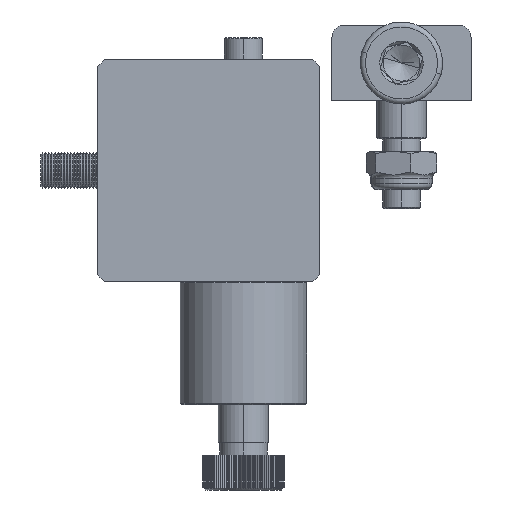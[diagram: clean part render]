
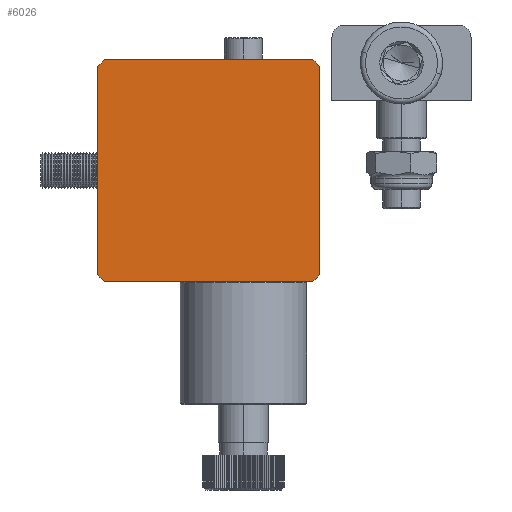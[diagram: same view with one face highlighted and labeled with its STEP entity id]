
A CAD part, left-side view. The second image highlights one B-rep face of the part: STEP entity #6026.
In plain terms, the highlighted planar face has unit normal (-1, 0, 0).
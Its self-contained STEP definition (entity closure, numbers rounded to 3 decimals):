
#853=DIRECTION('',(0.,0.,1.));
#854=VECTOR('',#853,33.);
#855=CARTESIAN_POINT('',(-83.908,111.839,-37.804));
#856=LINE('',#855,#854);
#901=DIRECTION('',(0.,-1.,0.));
#902=VECTOR('',#901,33.);
#903=CARTESIAN_POINT('',(-83.908,110.839,-3.804));
#904=LINE('',#903,#902);
#909=DIRECTION('',(0.,0.,1.));
#910=VECTOR('',#909,33.);
#911=CARTESIAN_POINT('',(-83.908,76.839,-37.804));
#912=LINE('',#911,#910);
#913=DIRECTION('',(0.,-0.707,0.707));
#914=VECTOR('',#913,1.414);
#915=CARTESIAN_POINT('',(-83.908,77.839,-38.804));
#916=LINE('',#915,#914);
#917=DIRECTION('',(0.,-1.,0.));
#918=VECTOR('',#917,33.);
#919=CARTESIAN_POINT('',(-83.908,110.839,-38.804));
#920=LINE('',#919,#918);
#921=DIRECTION('',(0.,-0.707,-0.707));
#922=VECTOR('',#921,1.414);
#923=CARTESIAN_POINT('',(-83.908,111.839,-37.804));
#924=LINE('',#923,#922);
#925=DIRECTION('',(0.,0.707,-0.707));
#926=VECTOR('',#925,1.414);
#927=CARTESIAN_POINT('',(-83.908,110.839,-3.804));
#928=LINE('',#927,#926);
#929=DIRECTION('',(0.,0.707,0.707));
#930=VECTOR('',#929,1.414);
#931=CARTESIAN_POINT('',(-83.908,76.839,-4.804));
#932=LINE('',#931,#930);
#3754=CARTESIAN_POINT('',(-83.908,111.839,
-4.804));
#3756=VERTEX_POINT('',#3754);
#3761=CARTESIAN_POINT('',(-83.908,111.839,
-37.804));
#3763=VERTEX_POINT('',#3761);
#3765=CARTESIAN_POINT('',(-83.908,110.839,
-3.804));
#3766=CARTESIAN_POINT('',(-83.908,77.839,
-3.804));
#3767=VERTEX_POINT('',#3765);
#3768=VERTEX_POINT('',#3766);
#3809=CARTESIAN_POINT('',(-83.908,77.839,
-38.804));
#3810=CARTESIAN_POINT('',(-83.908,76.839,
-37.804));
#3811=VERTEX_POINT('',#3809);
#3812=VERTEX_POINT('',#3810);
#3813=CARTESIAN_POINT('',(-83.908,110.839,
-38.804));
#3814=VERTEX_POINT('',#3813);
#3827=CARTESIAN_POINT('',(-83.908,76.839,
-4.804));
#3828=VERTEX_POINT('',#3827);
#6005=CARTESIAN_POINT('',(-83.908,76.839,
-38.804));
#6006=DIRECTION('',(1.,0.,0.));
#6007=DIRECTION('',(0.,0.,1.));
#6008=AXIS2_PLACEMENT_3D('',#6005,#6006,#6007);
#6009=PLANE('',#6008);
#6011=ORIENTED_EDGE('',*,*,#6010,.F.);
#6013=ORIENTED_EDGE('',*,*,#6012,.F.);
#6015=ORIENTED_EDGE('',*,*,#6014,.F.);
#6017=ORIENTED_EDGE('',*,*,#6016,.F.);
#6018=ORIENTED_EDGE('',*,*,#5946,.T.);
#6020=ORIENTED_EDGE('',*,*,#6019,.F.);
#6021=ORIENTED_EDGE('',*,*,#5995,.T.);
#6023=ORIENTED_EDGE('',*,*,#6022,.F.);
#6024=EDGE_LOOP('',(#6011,#6013,#6015,#6017,#6018,#6020,#6021,#6023));
#6025=FACE_OUTER_BOUND('',#6024,.F.);
#6026=ADVANCED_FACE('',(#6025),#6009,.F.);
#5946=EDGE_CURVE('',#3763,#3756,#856,.T.);
#5995=EDGE_CURVE('',#3767,#3768,#904,.T.);
#6010=EDGE_CURVE('',#3812,#3828,#912,.T.);
#6012=EDGE_CURVE('',#3811,#3812,#916,.T.);
#6014=EDGE_CURVE('',#3814,#3811,#920,.T.);
#6016=EDGE_CURVE('',#3763,#3814,#924,.T.);
#6019=EDGE_CURVE('',#3767,#3756,#928,.T.);
#6022=EDGE_CURVE('',#3828,#3768,#932,.T.);
